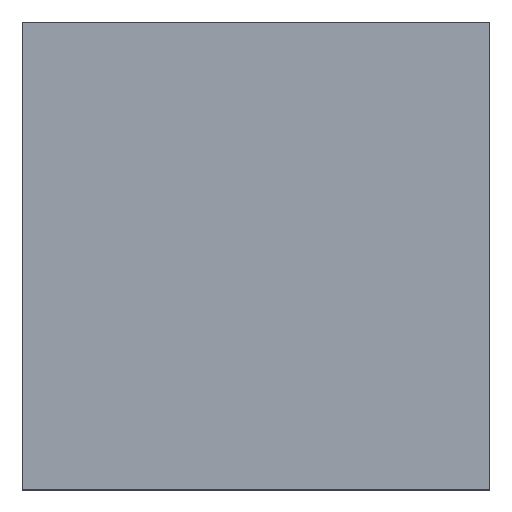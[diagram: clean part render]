
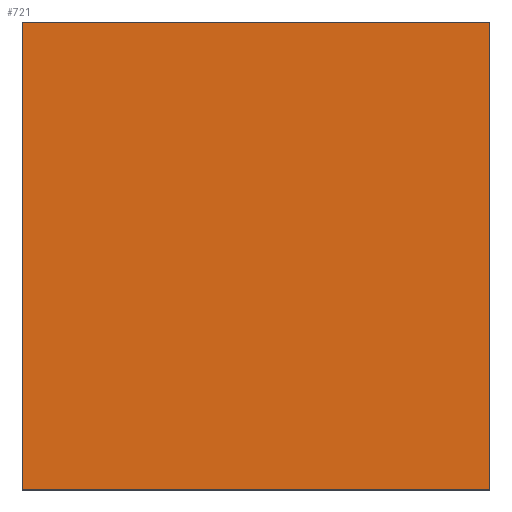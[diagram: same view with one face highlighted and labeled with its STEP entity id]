
A CAD part, top view. The second image highlights one B-rep face of the part: STEP entity #721.
In plain terms, the highlighted planar face has unit normal (0, 0, 1).
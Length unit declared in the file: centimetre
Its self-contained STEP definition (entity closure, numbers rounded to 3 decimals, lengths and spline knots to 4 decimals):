
#22 = CARTESIAN_POINT ( 'NONE',  ( 0., 1000., 1000. ) ) ;
#42 = LINE ( 'NONE', #22, #457 ) ;
#62 = FACE_OUTER_BOUND ( 'NONE', #728, .T. ) ;
#81 = VECTOR ( 'NONE', #449, 100. ) ;
#111 = VECTOR ( 'NONE', #749, 100. ) ;
#116 = CARTESIAN_POINT ( 'NONE',  ( 0., 1000., 1000. ) ) ;
#156 = CARTESIAN_POINT ( 'NONE',  ( 1000., 1000., 1000. ) ) ;
#227 = LINE ( 'NONE', #156, #111 ) ;
#241 = DIRECTION ( 'NONE',  ( 0., -1., 0. ) ) ;
#250 = DIRECTION ( 'NONE',  ( -1., 0., 0. ) ) ;
#269 = CARTESIAN_POINT ( 'NONE',  ( 0., 0., 1000. ) ) ;
#292 = VERTEX_POINT ( 'NONE', #382 ) ;
#295 = ORIENTED_EDGE ( 'NONE', *, *, #487, .T. ) ;
#370 = VERTEX_POINT ( 'NONE', #460 ) ;
#382 = CARTESIAN_POINT ( 'NONE',  ( 1000., 0., 1000. ) ) ;
#398 = AXIS2_PLACEMENT_3D ( 'NONE', #269, #665, #959 ) ;
#412 = CARTESIAN_POINT ( 'NONE',  ( 0., 1000., 1000. ) ) ;
#449 = DIRECTION ( 'NONE',  ( 1., 0., 0. ) ) ;
#457 = VECTOR ( 'NONE', #241, 100. ) ;
#460 = CARTESIAN_POINT ( 'NONE',  ( 1000., 1000., 1000. ) ) ;
#487 = EDGE_CURVE ( 'NONE', #604, #654, #42, .T. ) ;
#563 = LINE ( 'NONE', #412, #969 ) ;
#564 = EDGE_CURVE ( 'NONE', #370, #604, #563, .T. ) ;
#580 = PLANE ( 'NONE',  #398 ) ;
#604 = VERTEX_POINT ( 'NONE', #116 ) ;
#654 = VERTEX_POINT ( 'NONE', #877 ) ;
#659 = ORIENTED_EDGE ( 'NONE', *, *, #854, .T. ) ;
#665 = DIRECTION ( 'NONE',  ( 0., 0., 1. ) ) ;
#721 = ADVANCED_FACE ( 'NONE', ( #62 ), #580, .T. ) ;
#728 = EDGE_LOOP ( 'NONE', ( #295, #659, #748, #880 ) ) ;
#746 = CARTESIAN_POINT ( 'NONE',  ( 0., 0., 1000. ) ) ;
#748 = ORIENTED_EDGE ( 'NONE', *, *, #890, .T. ) ;
#749 = DIRECTION ( 'NONE',  ( 0., 1., 0. ) ) ;
#827 = LINE ( 'NONE', #746, #81 ) ;
#854 = EDGE_CURVE ( 'NONE', #654, #292, #827, .T. ) ;
#877 = CARTESIAN_POINT ( 'NONE',  ( 0., 0., 1000. ) ) ;
#880 = ORIENTED_EDGE ( 'NONE', *, *, #564, .T. ) ;
#890 = EDGE_CURVE ( 'NONE', #292, #370, #227, .T. ) ;
#959 = DIRECTION ( 'NONE',  ( 1., 0., 0. ) ) ;
#969 = VECTOR ( 'NONE', #250, 100. ) ;
